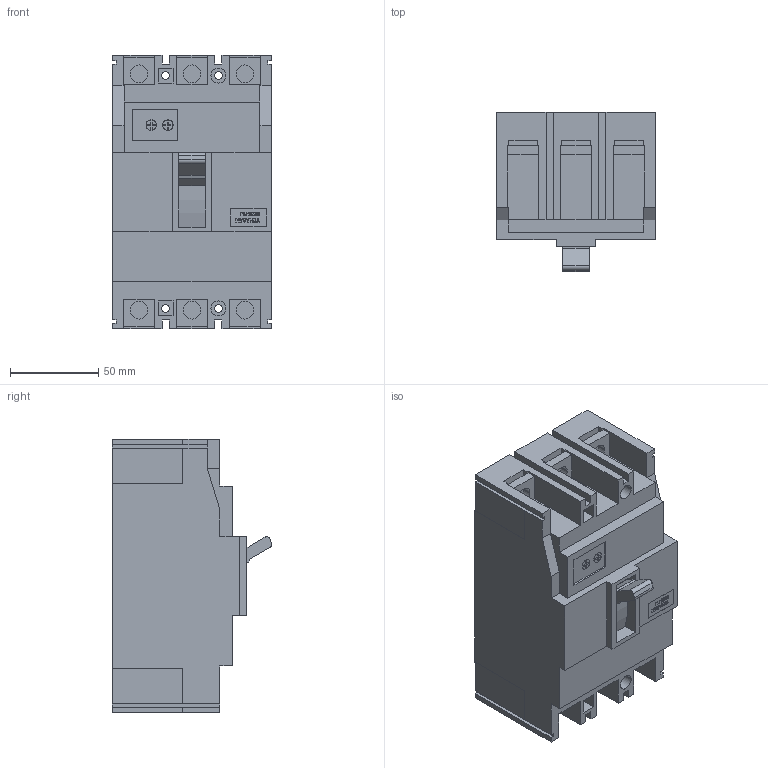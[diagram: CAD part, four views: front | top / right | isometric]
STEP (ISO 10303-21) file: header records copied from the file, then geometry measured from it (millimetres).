
FILE_DESCRIPTION((''),'2;1');
FILE_NAME('S125NJ332','2012-09-19T',('cmahecha'),(''),'PRO/ENGINEER BY PARAMETRIC TECHNOLOGY CORPORATION, 2010280','PRO/ENGINEER BY PARAMETRIC TECHNOLOGY CORPORATION, 2010280','');
FILE_SCHEMA(('CONFIG_CONTROL_DESIGN'));
Length unit declared in the file: millimetre
Products named in the file (1): S125NJ332
Bounding box: 90 x 90.39 x 155 mm (x, y, z)
Volume: 843550.1 mm3; surface area: 81615.3 mm2
Topology: 1 solids, 1 shells, 570 faces, 1589 edges, 1054 vertices
Faces by surface type: plane 534, cylinder 36
Entity records: 18015 total; most frequent: CARTESIAN_POINT 3213, ORIENTED_EDGE 3178, DIRECTION 2801, EDGE_CURVE 1589, VECTOR 1517, LINE 1517, VERTEX_POINT 1054, AXIS2_PLACEMENT_3D 642
